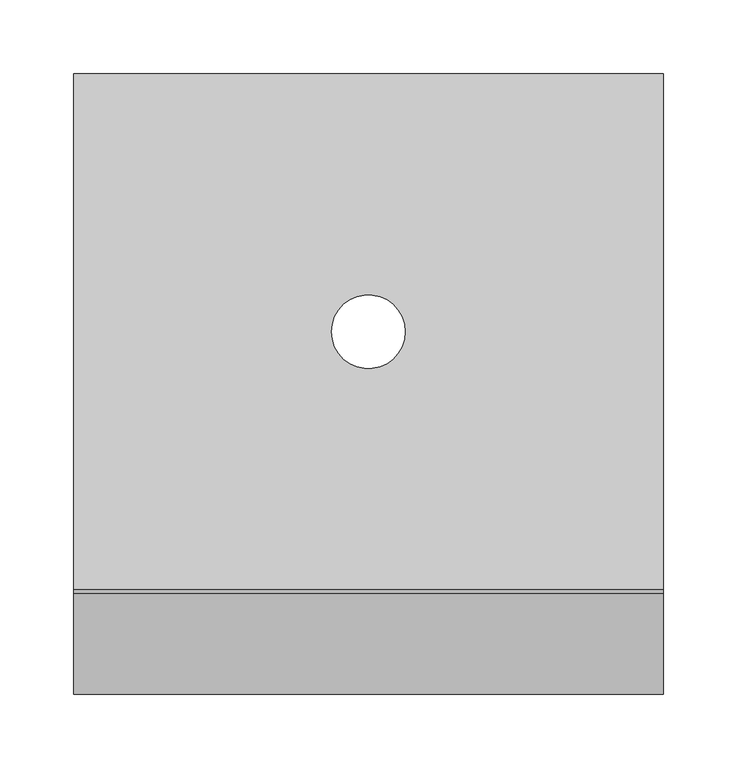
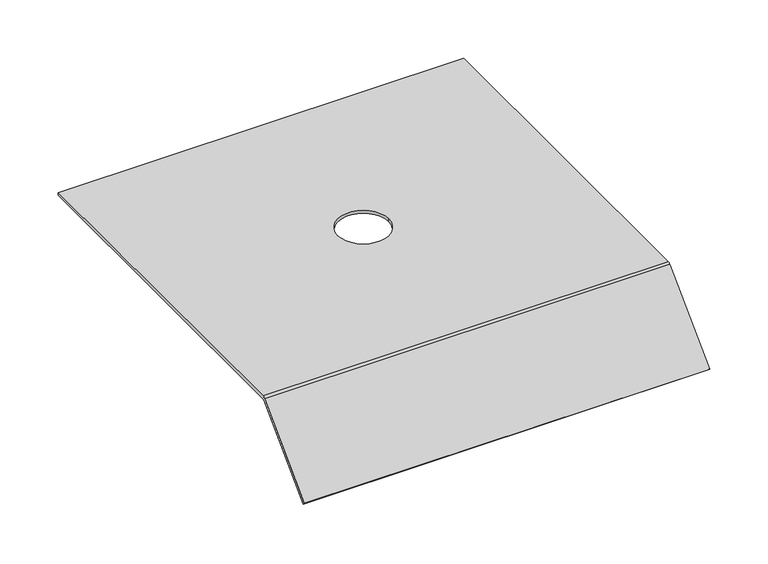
"""IFC4 building model written with IfcOpenShell, lengths in millimetres: proxy geometry, Electrical_Installation_Hager_Covers-With-Installation-Opening-GBZ : Electrical_Installation_Hager_Covers-With-Installation-Opening-GBZ."""

from ifc_helpers import new_model, si_unit, frame, origin, place, context, project, spatial, polyline, circle_curve, source, transform, mapped, element, save
from ifc_brep_helpers import plane_surface, cylinder_surface, revolved_surface, advanced_brep


def electrical_fixtures_02c799a8(model_context):
    return source(origin(), model_context, "Body", "AdvancedBrep", [
        advanced_brep(
        [(0.0, 175.0, 40.5), (0.0, 175.0, 37.5), (0.0, -174.8229541, 37.5), (0.0, -175.8322972, 37.0819164), (0.0, -243.712807, -30.7985934), (0.0, -245.8341273, -28.6772731), (0.0, -177.8206472, 39.336207), (0.0, -175.0110025, 40.5), (400.0, 175.0, 40.5), (400.0, -175.0110025, 40.5), (400.0, -177.8206472, 39.336207), (400.0, -245.8341273, -28.6772731), (400.0, -243.712807, -30.7985934), (400.0, -175.8322972, 37.0819164), (400.0, -174.8229541, 37.5), (400.0, 175.0, 37.5), (175.0, 0.0, 37.5), (225.0, 0.0, 37.5), (225.0, 0.0, 40.5), (175.0, 0.0, 40.5)],
        [
            (0, 1),
            (1, 2),
            (2, 3, circle_curve(frame((0.0, -174.8229541, 36.0725733), z_axis=(1.0, 0.0, 0.0), x_axis=(0.0, 1.0, 0.0)), 1.4274267)),
            (3, 4),
            (4, 5),
            (5, 6),
            (6, 7, circle_curve(frame((0.0, -175.0110025, 36.5265623), z_axis=(-1.0, 0.0, 0.0), x_axis=(0.0, 1.0, 0.0)), 3.9734377)),
            (7, 0),
            (8, 9),
            (9, 10, circle_curve(frame((400.0, -175.0110025, 36.5265623), z_axis=(1.0, 0.0, 0.0), x_axis=(0.0, 1.0, 0.0)), 3.9734377)),
            (10, 11),
            (11, 12),
            (12, 13),
            (13, 14, circle_curve(frame((400.0, -174.8229541, 36.0725733), z_axis=(-1.0, 0.0, 0.0), x_axis=(0.0, 1.0, 0.0)), 1.4274267)),
            (14, 15),
            (15, 8),
            (0, 8),
            (15, 1),
            (14, 2),
            (16, 17, circle_curve(frame((200.0, 0.0, 37.5), z_axis=(0.0, 0.0, 1.0), x_axis=(1.0, 0.0, 0.0)), 25.0)),
            (17, 16, circle_curve(frame((200.0, 0.0, 37.5), z_axis=(0.0, 0.0, 1.0), x_axis=(1.0, 0.0, 0.0)), 25.0)),
            (13, 3),
            (12, 4),
            (11, 5),
            (10, 6),
            (9, 7),
            (18, 19, circle_curve(frame((200.0, 0.0, 40.5), z_axis=(0.0, 0.0, -1.0), x_axis=(1.0, 0.0, 0.0)), 25.0)),
            (19, 18, circle_curve(frame((200.0, 0.0, 40.5), z_axis=(0.0, 0.0, -1.0), x_axis=(1.0, 0.0, 0.0)), 25.0)),
            (16, 19),
            (18, 17),
        ],
        [
            plane_surface(frame((0.0, 0.3269864, 15.0), z_axis=(-1.0, 0.0, 0.0), x_axis=(0.0, 0.0, 1.0))),
            plane_surface(frame((400.0, 0.3269864, 15.0), z_axis=(1.0, 0.0, 0.0), x_axis=(0.0, 0.0, 1.0))),
            plane_surface(frame((0.0, 175.0, 40.5), z_axis=(0.0, 1.0, 0.0), x_axis=(1.0, 0.0, 0.0))),
            plane_surface(frame((0.0, 175.0, 37.5), z_axis=(0.0, 0.0, -1.0), x_axis=(1.0, 0.0, 0.0))),
            revolved_surface(polyline([(400.0, -173.3955274, 36.0725733), (0.0, -173.3955274, 36.0725733)]), (0.0, -174.8229541, 36.0725733), (1.0, 0.0, 0.0)),
            plane_surface(frame((0.0, -175.8322972, 37.0819164), z_axis=(0.0, 0.7071067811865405, -0.7071067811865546), x_axis=(1.0, 0.0, 0.0))),
            plane_surface(frame((0.0, -243.712807, -30.7985934), z_axis=(0.0, -0.7071067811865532, -0.7071067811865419), x_axis=(1.0, 0.0, 0.0))),
            plane_surface(frame((0.0, -245.8341273, -28.6772731), z_axis=(0.0, -0.7071067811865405, 0.7071067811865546), x_axis=(1.0, 0.0, 0.0))),
            cylinder_surface(frame((0.0, -175.0110025, 36.5265623), z_axis=(-1.0, 0.0, 0.0), x_axis=(0.0, 1.0, 0.0)), 3.9734377),
            plane_surface(frame((0.0, -175.0110025, 40.5), z_axis=(0.0, 0.0, 1.0), x_axis=(1.0, 0.0, 0.0))),
            revolved_surface(polyline([(225.0, 0.0, 40.5), (225.0, 0.0, 37.5)]), (200.0, 0.0, 0.0), (0.0, 0.0, 1.0)),
        ],
        [
            (0, [[1, 2, 3, 4, 5, 6, 7, 8]]),
            (1, [[9, 10, 11, 12, 13, 14, 15, 16]]),
            (2, [[-1, 17, -16, 18]]),
            (3, [[-2, -18, -15, 19], [20, 21]]),
            (4, [[-3, -19, -14, 22]]),
            (5, [[-4, -22, -13, 23]]),
            (6, [[-5, -23, -12, 24]]),
            (7, [[-6, -24, -11, 25]]),
            (8, [[-7, -25, -10, 26]]),
            (9, [[-8, -26, -9, -17], [27, 28]]),
            (10, [[29, -27, 30, -20]]),
            (10, [[-29, -21, -30, -28]]),
        ],
    ),
    ])


if __name__ == "__main__":
    model = new_model("IFC4")
    model_context = context("Model", 3, world=origin())
    ifc_project = project(units=[si_unit("LENGTHUNIT", "METRE", prefix="MILLI")], contexts=[model_context])
    site = spatial("IfcSite", under=ifc_project)
    building = spatial("IfcBuilding", under=site)
    placement = place(None, origin())
    electrical_fixtures_shape = electrical_fixtures_02c799a8(model_context)
    element("IfcBuildingElementProxy", 1, Name="Electrical_Installation_Hager_Covers-With-Installation-Opening-GBZ : Electrical_Installation_Hager_Covers-With-Installation-Opening-GBZ", ObjectType="Electrical_Installation_Hager_Covers-With-Installation-Opening-GBZ : Electrical_Installation_Hager_Covers-With-Installation-Opening-GBZ", at=placement, inside=building, context=model_context, shape_type="MappedRepresentation", body=[
        mapped(electrical_fixtures_shape, transform((0.0, 0.0, 0.0), x_axis=(1.0, 0.0, 0.0), y_axis=(0.0, 1.0, 0.0), z_axis=(0.0, 0.0, 1.0))),
    ])
    save(model, "model.ifc")
